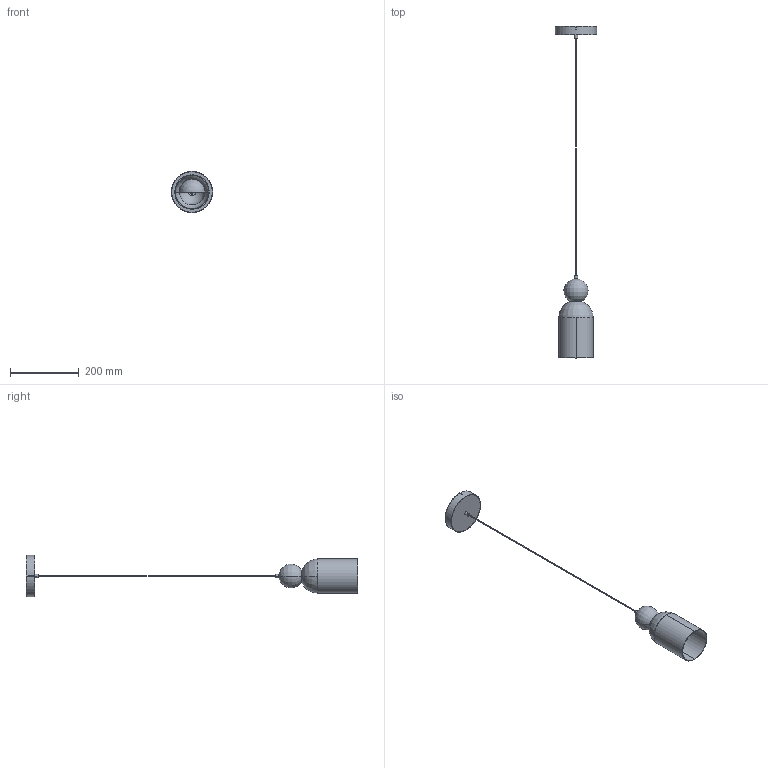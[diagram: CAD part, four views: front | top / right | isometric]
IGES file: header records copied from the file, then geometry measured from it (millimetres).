
Start section: SolidWorks IGES file using analytic representation for surfaces
Global section: file name: F:\燠隴矨\3D\2025-7\Dani Brass Pendant Lamp.IGS,15; native system: HSolidWorks 2022; preprocessor: SolidWorks 2022; author: MyPC; date: 250713.111458; units: millimetre
Bounding box: 120 x 965 x 120 mm (x, y, z)
Surface area: 195566 mm2 (no closed solid volume)
Topology: 0 solids, 0 shells, 46 faces, 1044 edges, 1041 vertices
Faces by surface type: revolution 28, bspline 18
